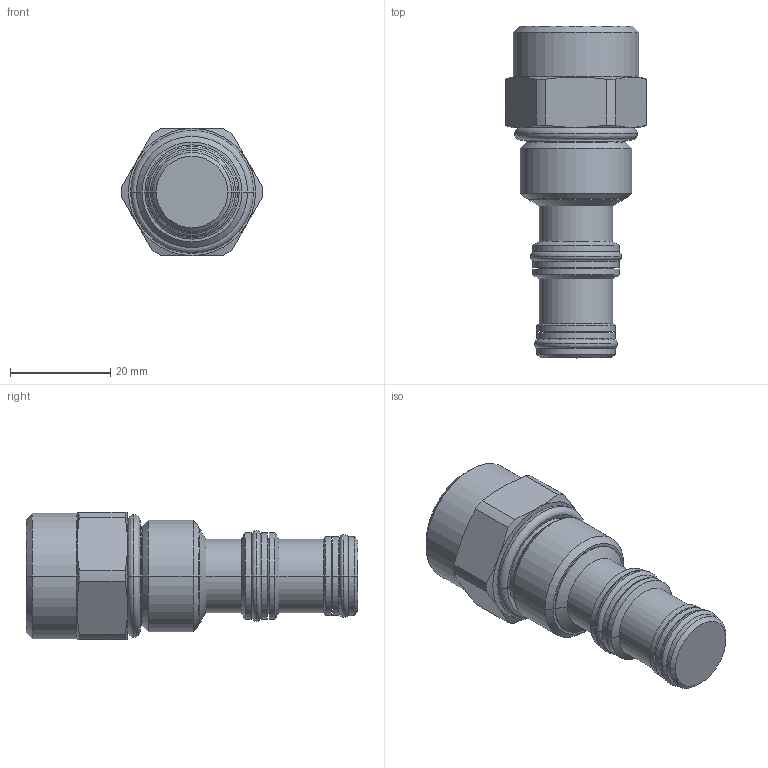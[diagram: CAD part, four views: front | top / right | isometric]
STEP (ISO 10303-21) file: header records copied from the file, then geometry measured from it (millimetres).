
FILE_DESCRIPTION((''),'2;1');
FILE_NAME('5413300_SW0001','2009-01-29T',('JCS'),(''),'PRO/ENGINEER BY PARAMETRIC TECHNOLOGY CORPORATION, 2008010','PRO/ENGINEER BY PARAMETRIC TECHNOLOGY CORPORATION, 2008010','');
FILE_SCHEMA(('CONFIG_CONTROL_DESIGN'));
Length unit declared in the file: inch
Products named in the file (1): 5413300_SW0001
Bounding box: 28.19 x 66.32 x 25.4 mm (x, y, z)
Volume: 22099.4 mm3; surface area: 6865.4 mm2
Topology: 4 solids, 4 shells, 116 faces, 242 edges, 138 vertices
Faces by surface type: cylinder 38, cone 24, revolution 24, plane 18, torus 12
Entity records: 3880 total; most frequent: CARTESIAN_POINT 1350, DIRECTION 546, ORIENTED_EDGE 484, EDGE_CURVE 242, AXIS2_PLACEMENT_3D 230, VERTEX_POINT 138, CIRCLE 138, EDGE_LOOP 126
